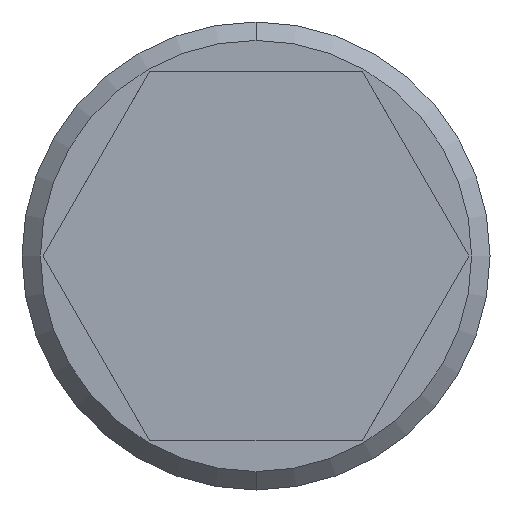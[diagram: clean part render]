
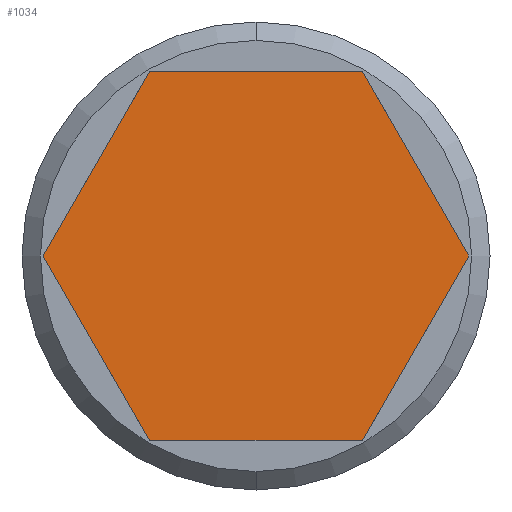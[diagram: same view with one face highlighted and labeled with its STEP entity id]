
A CAD part, front view. The second image highlights one B-rep face of the part: STEP entity #1034.
In plain terms, the highlighted planar face has unit normal (0, -1, 0) as drawn and (0, 1, 0) by its records, which use the part's own axes.
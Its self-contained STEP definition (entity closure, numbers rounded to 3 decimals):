
#23 = DIRECTION ( 'NONE',  ( 0.5, 0., 0.866 ) ) ;
#63 = DIRECTION ( 'NONE',  ( -0.5, 0., 0.866 ) ) ;
#64 = CARTESIAN_POINT ( 'NONE',  ( -2.887, 4., -5. ) ) ;
#86 = LINE ( 'NONE', #120, #786 ) ;
#112 = LINE ( 'NONE', #132, #790 ) ;
#120 = CARTESIAN_POINT ( 'NONE',  ( -5.774, 4., 0. ) ) ;
#132 = CARTESIAN_POINT ( 'NONE',  ( -2.887, 4., 5. ) ) ;
#164 = LINE ( 'NONE', #64, #1876 ) ;
#248 = LINE ( 'NONE', #1152, #810 ) ;
#286 = DIRECTION ( 'NONE',  ( 1., 0., 0. ) ) ;
#441 = CARTESIAN_POINT ( 'NONE',  ( -5.774, 4., 0. ) ) ;
#444 = CARTESIAN_POINT ( 'NONE',  ( -2.887, 4., 5. ) ) ;
#465 = CARTESIAN_POINT ( 'NONE',  ( 2.887, 4., 5. ) ) ;
#477 = CARTESIAN_POINT ( 'NONE',  ( 5.774, 4., 0. ) ) ;
#524 = CARTESIAN_POINT ( 'NONE',  ( 2.887, 4., -5. ) ) ;
#575 = EDGE_LOOP ( 'NONE', ( #893, #881, #837, #836, #896, #839 ) ) ;
#587 = CARTESIAN_POINT ( 'NONE',  ( -2.887, 4., -5. ) ) ;
#612 = VERTEX_POINT ( 'NONE', #465 ) ;
#619 = VERTEX_POINT ( 'NONE', #587 ) ;
#657 = VERTEX_POINT ( 'NONE', #441 ) ;
#660 = VERTEX_POINT ( 'NONE', #444 ) ;
#662 = VERTEX_POINT ( 'NONE', #524 ) ;
#678 = VERTEX_POINT ( 'NONE', #477 ) ;
#786 = VECTOR ( 'NONE', #23, 1000. ) ;
#790 = VECTOR ( 'NONE', #286, 1000. ) ;
#810 = VECTOR ( 'NONE', #1300, 1000. ) ;
#836 = ORIENTED_EDGE ( 'NONE', *, *, #1000, .T. ) ;
#837 = ORIENTED_EDGE ( 'NONE', *, *, #979, .T. ) ;
#839 = ORIENTED_EDGE ( 'NONE', *, *, #1044, .T. ) ;
#881 = ORIENTED_EDGE ( 'NONE', *, *, #951, .T. ) ;
#893 = ORIENTED_EDGE ( 'NONE', *, *, #930, .T. ) ;
#896 = ORIENTED_EDGE ( 'NONE', *, *, #1072, .T. ) ;
#930 = EDGE_CURVE ( 'NONE', #619, #657, #164, .T. ) ;
#951 = EDGE_CURVE ( 'NONE', #657, #660, #86, .T. ) ;
#979 = EDGE_CURVE ( 'NONE', #660, #612, #112, .T. ) ;
#1000 = EDGE_CURVE ( 'NONE', #612, #678, #248, .T. ) ;
#1034 = ADVANCED_FACE ( 'NONE', ( #1224 ), #1227, .T. ) ;
#1044 = EDGE_CURVE ( 'NONE', #662, #619, #1158, .T. ) ;
#1072 = EDGE_CURVE ( 'NONE', #678, #662, #1309, .T. ) ;
#1144 = CARTESIAN_POINT ( 'NONE',  ( 2.887, 4., -5. ) ) ;
#1152 = CARTESIAN_POINT ( 'NONE',  ( 2.887, 4., 5. ) ) ;
#1158 = LINE ( 'NONE', #1144, #1422 ) ;
#1161 = DIRECTION ( 'NONE',  ( 0., 1., 0. ) ) ;
#1179 = DIRECTION ( 'NONE',  ( -0.5, 0., -0.866 ) ) ;
#1203 = DIRECTION ( 'NONE',  ( -1., 0., 0. ) ) ;
#1224 = FACE_OUTER_BOUND ( 'NONE', #575, .T. ) ;
#1227 = PLANE ( 'NONE',  #1382 ) ;
#1245 = CARTESIAN_POINT ( 'NONE',  ( -5.774, 4., 0. ) ) ;
#1268 = DIRECTION ( 'NONE',  ( 0., 0., 1. ) ) ;
#1300 = DIRECTION ( 'NONE',  ( 0.5, 0., -0.866 ) ) ;
#1307 = CARTESIAN_POINT ( 'NONE',  ( 5.774, 4., 0. ) ) ;
#1309 = LINE ( 'NONE', #1307, #1392 ) ;
#1382 = AXIS2_PLACEMENT_3D ( 'NONE', #1245, #1161, #1268 ) ;
#1392 = VECTOR ( 'NONE', #1179, 1000. ) ;
#1422 = VECTOR ( 'NONE', #1203, 1000. ) ;
#1876 = VECTOR ( 'NONE', #63, 1000. ) ;
